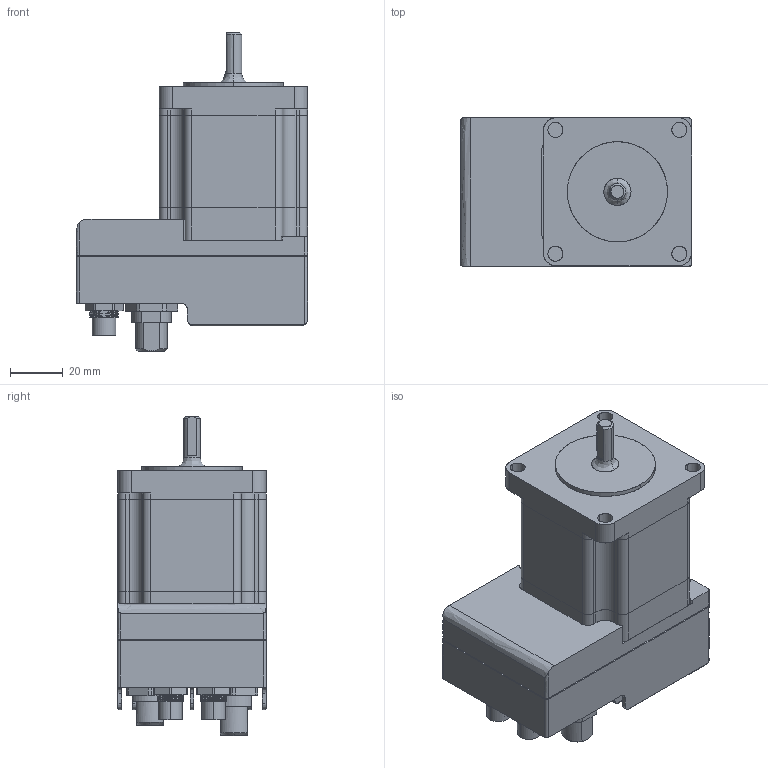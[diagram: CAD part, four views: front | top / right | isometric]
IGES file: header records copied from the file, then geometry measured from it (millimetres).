
Start section: SolidWorks IGES file using analytic representation for surfaces
Global section: file name: C:\Work\Sevotronix\NEMA 23 ECAT 3_11_16\CAD\3d models for customers\IST-23S16EC10.IGS; native system: SolidWorks 2013; preprocessor: SolidWorks 2013; author: owner; date: 180321.124002; units: millimetre
Bounding box: 87.9 x 56.4 x 121.41 mm (x, y, z)
Surface area: 105577.6 mm2 (no closed solid volume)
Topology: 0 solids, 0 shells, 1644 faces, 20469 edges, 20425 vertices
Faces by surface type: revolution 859, bspline 785
